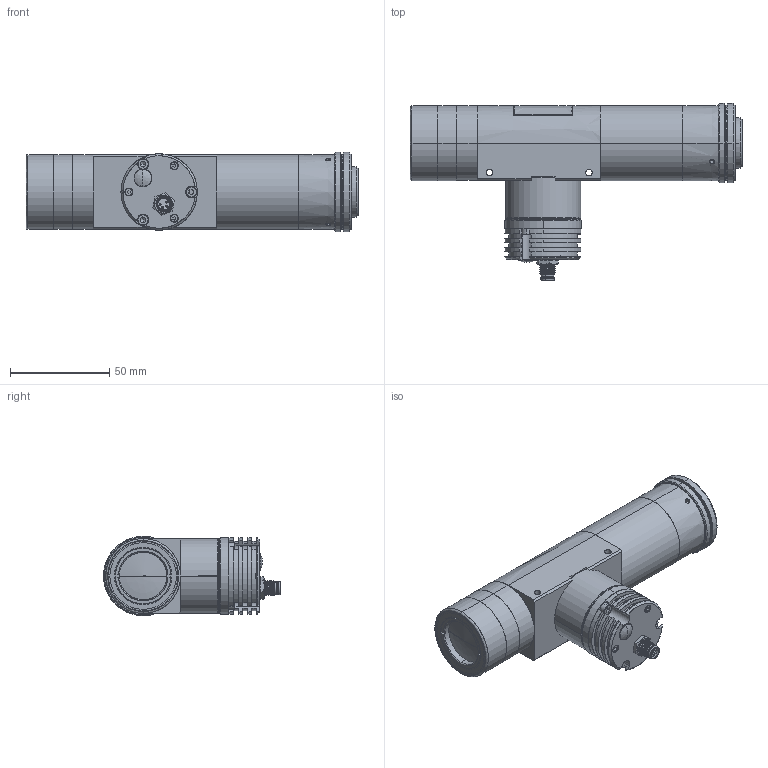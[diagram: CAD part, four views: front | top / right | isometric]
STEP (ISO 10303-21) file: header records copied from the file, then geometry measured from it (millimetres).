
FILE_DESCRIPTION(('LS-TCL-0402'),'2;1');
FILE_NAME('LS-TCL-0402.stp','2026-10-15T21:56:40',('LumaSpec Vision'),('LumaSpec Vision'),'LumaSpec Vision','LumaSpec Vision','');
FILE_SCHEMA(('AUTOMOTIVE_DESIGN { 1 0 10303 214 1 1 1 1 }'));
Length unit declared in the file: millimetre
Products named in the file (392): LumaSpec Vision
Assembly tree (391 placements, depth 2):
  LumaSpec Vision
    LumaSpec Vision
    LumaSpec Vision
    LumaSpec Vision
    LumaSpec Vision
    LumaSpec Vision
    LumaSpec Vision
    LumaSpec Vision
    LumaSpec Vision
    LumaSpec Vision
    LumaSpec Vision
    LumaSpec Vision
    LumaSpec Vision
    LumaSpec Vision
    LumaSpec Vision
    LumaSpec Vision
    LumaSpec Vision
    LumaSpec Vision
    LumaSpec Vision
    LumaSpec Vision
    LumaSpec Vision
    LumaSpec Vision
    LumaSpec Vision
    LumaSpec Vision
    LumaSpec Vision
    LumaSpec Vision
    LumaSpec Vision
    LumaSpec Vision
    LumaSpec Vision
    LumaSpec Vision
    LumaSpec Vision
    LumaSpec Vision
    LumaSpec Vision
    LumaSpec Vision
    LumaSpec Vision
    LumaSpec Vision
    LumaSpec Vision
    LumaSpec Vision
    LumaSpec Vision
    LumaSpec Vision
    LumaSpec Vision
    LumaSpec Vision
    LumaSpec Vision
    LumaSpec Vision
    LumaSpec Vision
    LumaSpec Vision
    LumaSpec Vision
    LumaSpec Vision
    LumaSpec Vision
    LumaSpec Vision
    LumaSpec Vision
    LumaSpec Vision
    LumaSpec Vision
    LumaSpec Vision
    LumaSpec Vision
    LumaSpec Vision
    LumaSpec Vision
    LumaSpec Vision
    LumaSpec Vision
    LumaSpec Vision
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Bounding box: 167.35 x 89.22 x 40 mm (x, y, z)
Surface area: 40376.8 mm2 (no closed solid volume)
Topology: 0 solids, 391 shells, 391 faces, 6621 edges, 6602 vertices
Faces by surface type: bspline 246, revolution 145
Entity records: 112692 total; most frequent: CARTESIAN_POINT 47376, B_SPLINE_CURVE_WITH_KNOTS 11910, ORIENTED_EDGE 6602, EDGE_CURVE 6602, VERTEX_POINT 6602, SURFACE_CURVE 6602, PCURVE 6602, DEFINITIONAL_REPRESENTATION 6602
